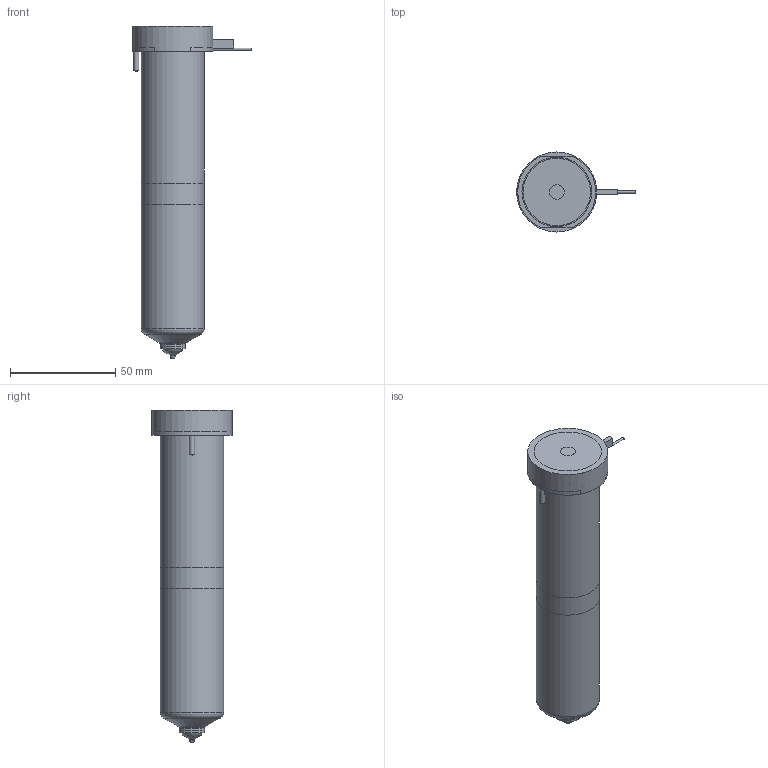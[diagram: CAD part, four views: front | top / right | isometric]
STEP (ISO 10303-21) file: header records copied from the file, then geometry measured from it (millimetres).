
FILE_DESCRIPTION(/* description */ (''),/* implementation_level */ '2;1');
FILE_NAME(/* name */ 'BXOV16145_250C_b',/* time_stamp */ '2007-01-18T08:47:46+13:00',/* author */ (''),/* organization */ (''),/* preprocessor_version */ 'ST-DEVELOPER v9',/* originating_system */ 'UGS - NX 4.0',/* authorisation */ '');
FILE_SCHEMA (('CONFIG_CONTROL_DESIGN'));
Length unit declared in the file: millimetre
Products named in the file (1): BXOV16145_250C_b
Bounding box: 56.25 x 38 x 157.48 mm (x, y, z)
Volume: 198189.1 mm3; surface area: 34991.2 mm2
Topology: 6 solids, 6 shells, 86 faces, 170 edges, 108 vertices
Faces by surface type: plane 37, cylinder 25, cone 13, torus 8, bspline 3
Full cylindrical faces by diameter (mm): 1 x3, 2.5 x3, 7 x1, 7.8 x1, 8 x1, 11.61 x1, 12.01 x2, 14.8 x1, 25.4 x1, 30 x2, 38 x1
Entity records: 2138 total; most frequent: CARTESIAN_POINT 458, DIRECTION 354, ORIENTED_EDGE 244, AXIS2_PLACEMENT_3D 158, EDGE_LOOP 136, EDGE_CURVE 122, VERTEX_POINT 99, ADVANCED_FACE 86
